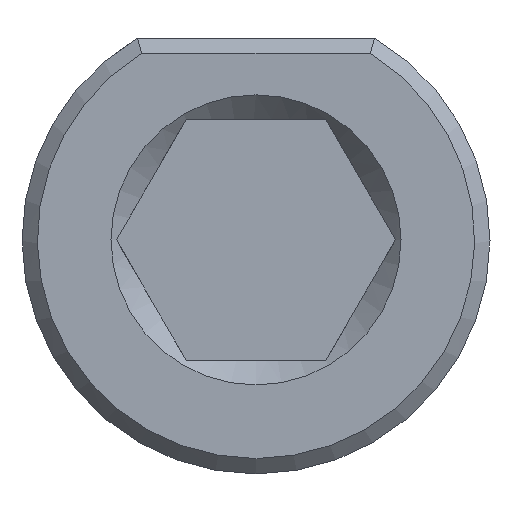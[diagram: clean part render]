
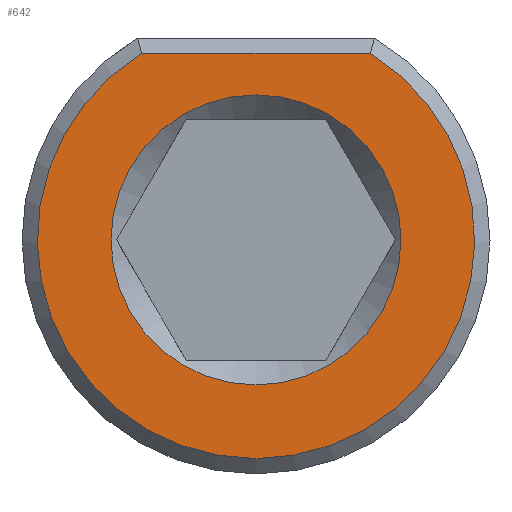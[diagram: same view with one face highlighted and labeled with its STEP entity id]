
A CAD part, front view. The second image highlights one B-rep face of the part: STEP entity #642.
In plain terms, the highlighted planar face has unit normal (0, -1, 0).
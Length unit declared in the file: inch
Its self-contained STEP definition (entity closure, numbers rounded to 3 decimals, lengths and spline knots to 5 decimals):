
#27=FACE_BOUND('',#146,.T.);
#35=PLANE('',#716);
#78=CIRCLE('',#713,0.285);
#80=CIRCLE('',#717,0.189);
#108=FACE_OUTER_BOUND('',#145,.T.);
#145=EDGE_LOOP('',(#519,#520));
#146=EDGE_LOOP('',(#521));
#184=LINE('',#1167,#223);
#223=VECTOR('',#840,0.3937);
#300=VERTEX_POINT('',#1165);
#301=VERTEX_POINT('',#1166);
#302=VERTEX_POINT('',#1182);
#378=EDGE_CURVE('',#300,#301,#184,.T.);
#382=EDGE_CURVE('',#301,#300,#78,.T.);
#384=EDGE_CURVE('',#302,#302,#80,.T.);
#519=ORIENTED_EDGE('',*,*,#378,.F.);
#520=ORIENTED_EDGE('',*,*,#382,.F.);
#521=ORIENTED_EDGE('',*,*,#384,.F.);
#642=ADVANCED_FACE('',(#108,#27),#35,.T.);
#713=AXIS2_PLACEMENT_3D('',#1178,#844,#845);
#716=AXIS2_PLACEMENT_3D('',#1181,#850,#851);
#717=AXIS2_PLACEMENT_3D('',#1183,#852,#853);
#840=DIRECTION('',(1.,0.,0.));
#844=DIRECTION('center_axis',(0.,1.,0.));
#845=DIRECTION('ref_axis',(0.,0.,-1.));
#850=DIRECTION('center_axis',(0.,-1.,0.));
#851=DIRECTION('ref_axis',(0.,0.,-1.));
#852=DIRECTION('center_axis',(0.,-1.,0.));
#853=DIRECTION('ref_axis',(0.,0.,1.));
#1165=CARTESIAN_POINT('',(-0.14892,0.,0.243));
#1166=CARTESIAN_POINT('',(0.14892,0.,0.243));
#1167=CARTESIAN_POINT('',(0.07723,0.,0.243));
#1178=CARTESIAN_POINT('Origin',(0.,0.,0.));
#1181=CARTESIAN_POINT('Origin',(0.,0.,-0.154));
#1182=CARTESIAN_POINT('',(0.,0.,-0.189));
#1183=CARTESIAN_POINT('Origin',(0.,0.,0.));
